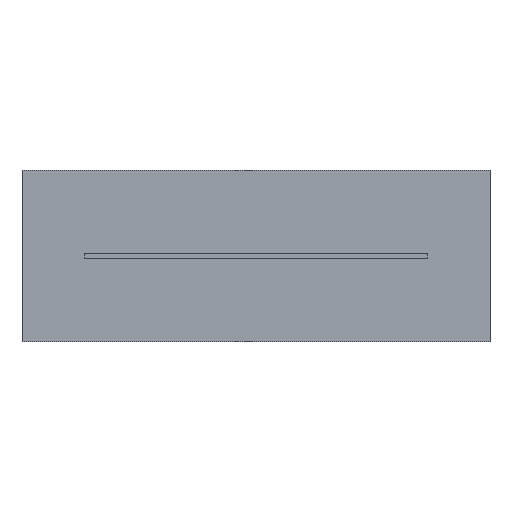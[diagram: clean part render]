
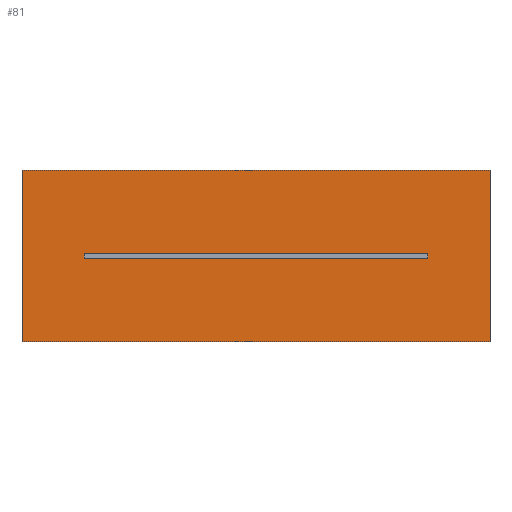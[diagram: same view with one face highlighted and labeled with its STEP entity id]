
A CAD part, top view. The second image highlights one B-rep face of the part: STEP entity #81.
In plain terms, the highlighted planar face has unit normal (0, 0, 1).
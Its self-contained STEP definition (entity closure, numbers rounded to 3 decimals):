
#12=FACE_BOUND($,#187,.T.);
#81=ADVANCED_FACE($,(#133,#12),#635,.T.);
#133=FACE_OUTER_BOUND($,#186,.T.);
#186=EDGE_LOOP($,(#396,#397,#398,#399));
#187=EDGE_LOOP($,(#400,#401,#402,#403));
#396=ORIENTED_EDGE($,*,*,#507,.F.);
#397=ORIENTED_EDGE($,*,*,#506,.F.);
#398=ORIENTED_EDGE($,*,*,#505,.F.);
#399=ORIENTED_EDGE($,*,*,#504,.F.);
#400=ORIENTED_EDGE($,*,*,#495,.F.);
#401=ORIENTED_EDGE($,*,*,#496,.F.);
#402=ORIENTED_EDGE($,*,*,#491,.T.);
#403=ORIENTED_EDGE($,*,*,#498,.T.);
#491=EDGE_CURVE($,#571,#570,#723,.T.);
#495=EDGE_CURVE($,#575,#574,#727,.T.);
#496=EDGE_CURVE($,#571,#575,#728,.T.);
#498=EDGE_CURVE($,#570,#574,#730,.T.);
#504=EDGE_CURVE($,#580,#581,#736,.T.);
#505=EDGE_CURVE($,#581,#582,#737,.T.);
#506=EDGE_CURVE($,#582,#583,#738,.T.);
#507=EDGE_CURVE($,#583,#580,#739,.T.);
#570=VERTEX_POINT($,#1284);
#571=VERTEX_POINT($,#1285);
#574=VERTEX_POINT($,#1288);
#575=VERTEX_POINT($,#1289);
#580=VERTEX_POINT($,#1294);
#581=VERTEX_POINT($,#1295);
#582=VERTEX_POINT($,#1296);
#583=VERTEX_POINT($,#1297);
#635=PLANE($,#883);
#723=B_SPLINE_CURVE_WITH_KNOTS($,3,(#1220,#1221,#1222,#1223),.UNSPECIFIED.,
.F.,.F.,(4,4),(0.,2200.),.UNSPECIFIED.);
#727=B_SPLINE_CURVE_WITH_KNOTS($,3,(#1236,#1237,#1238,#1239),.UNSPECIFIED.,
.F.,.F.,(4,4),(0.,2200.),.UNSPECIFIED.);
#728=B_SPLINE_CURVE_WITH_KNOTS($,1,(#1240,#1241),.UNSPECIFIED.,.F.,.F.,(2,
2),(0.,30.),.UNSPECIFIED.);
#730=B_SPLINE_CURVE_WITH_KNOTS($,1,(#1244,#1245),.UNSPECIFIED.,.F.,.F.,(2,
2),(0.,30.),.UNSPECIFIED.);
#736=B_SPLINE_CURVE_WITH_KNOTS($,1,(#1256,#1257),.UNSPECIFIED.,.F.,.F.,(2,
2),(0.,1100.),.UNSPECIFIED.);
#737=B_SPLINE_CURVE_WITH_KNOTS($,1,(#1258,#1259),.UNSPECIFIED.,.F.,.F.,(2,
2),(0.,3000.),.UNSPECIFIED.);
#738=B_SPLINE_CURVE_WITH_KNOTS($,1,(#1260,#1261),.UNSPECIFIED.,.F.,.F.,(2,
2),(0.,1100.),.UNSPECIFIED.);
#739=B_SPLINE_CURVE_WITH_KNOTS($,1,(#1262,#1263),.UNSPECIFIED.,.F.,.F.,(2,
2),(0.,3000.),.UNSPECIFIED.);
#883=AXIS2_PLACEMENT_3D($,#1281,#938,$);
#938=DIRECTION($,(0.,0.,1.));
#1220=CARTESIAN_POINT($,(2408.222,551.045,40.));
#1221=CARTESIAN_POINT($,(1674.889,551.045,40.));
#1222=CARTESIAN_POINT($,(941.556,551.045,40.));
#1223=CARTESIAN_POINT($,(208.222,551.045,40.));
#1236=CARTESIAN_POINT($,(2408.222,581.045,40.));
#1237=CARTESIAN_POINT($,(1674.889,581.045,40.));
#1238=CARTESIAN_POINT($,(941.556,581.045,40.));
#1239=CARTESIAN_POINT($,(208.222,581.045,40.));
#1240=CARTESIAN_POINT($,(2408.222,551.045,40.));
#1241=CARTESIAN_POINT($,(2408.222,581.045,40.));
#1244=CARTESIAN_POINT($,(208.222,551.045,40.));
#1245=CARTESIAN_POINT($,(208.222,581.045,40.));
#1256=CARTESIAN_POINT($,(-191.778,16.045,40.));
#1257=CARTESIAN_POINT($,(-191.778,1116.045,40.));
#1258=CARTESIAN_POINT($,(-191.778,1116.045,40.));
#1259=CARTESIAN_POINT($,(2808.222,1116.045,40.));
#1260=CARTESIAN_POINT($,(2808.222,1116.045,40.));
#1261=CARTESIAN_POINT($,(2808.222,16.045,40.));
#1262=CARTESIAN_POINT($,(2808.222,16.045,40.));
#1263=CARTESIAN_POINT($,(-191.778,16.045,40.));
#1281=CARTESIAN_POINT($,(-191.778,16.045,40.));
#1284=CARTESIAN_POINT($,(208.222,551.045,40.));
#1285=CARTESIAN_POINT($,(2408.222,551.045,40.));
#1288=CARTESIAN_POINT($,(208.222,581.045,40.));
#1289=CARTESIAN_POINT($,(2408.222,581.045,40.));
#1294=CARTESIAN_POINT($,(-191.778,16.045,40.));
#1295=CARTESIAN_POINT($,(-191.778,1116.045,40.));
#1296=CARTESIAN_POINT($,(2808.222,1116.045,40.));
#1297=CARTESIAN_POINT($,(2808.222,16.045,40.));
